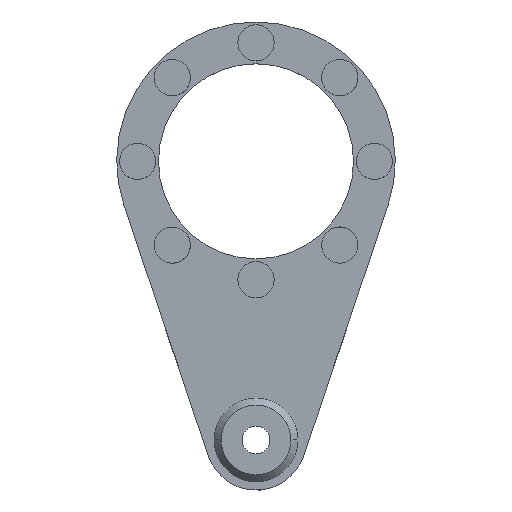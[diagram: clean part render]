
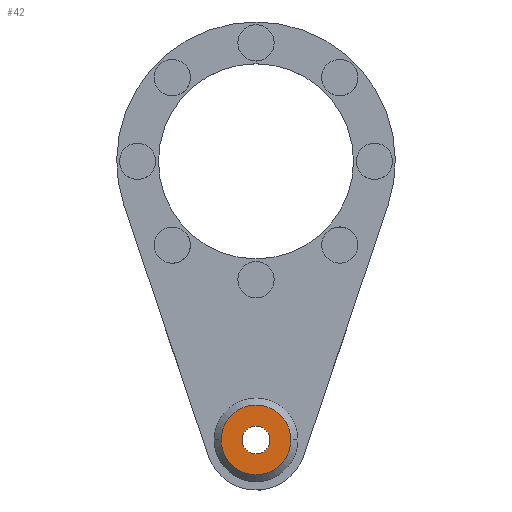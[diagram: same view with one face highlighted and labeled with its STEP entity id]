
A CAD part, top view. The second image highlights one B-rep face of the part: STEP entity #42.
In plain terms, the highlighted planar face has unit normal (0, 0, 1).
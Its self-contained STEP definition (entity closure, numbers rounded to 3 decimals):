
#31=FACE_BOUND('',#144,.T.);
#42=ADVANCED_FACE('',(#86,#31),#745,.T.);
#86=FACE_OUTER_BOUND('',#143,.T.);
#143=EDGE_LOOP('',(#248,#249));
#144=EDGE_LOOP('',(#250,#251));
#248=ORIENTED_EDGE('',*,*,#454,.F.);
#249=ORIENTED_EDGE('',*,*,#400,.F.);
#250=ORIENTED_EDGE('',*,*,#458,.F.);
#251=ORIENTED_EDGE('',*,*,#404,.F.);
#400=EDGE_CURVE('',#666,#695,#489,.T.);
#404=EDGE_CURVE('',#667,#698,#491,.T.);
#454=EDGE_CURVE('',#695,#666,#528,.T.);
#458=EDGE_CURVE('',#698,#667,#530,.T.);
#489=TRIMMED_CURVE($,#553,(#1419),(#1420),.T.,.CARTESIAN.);
#491=TRIMMED_CURVE($,#555,(#1429),(#1430),.T.,.CARTESIAN.);
#528=TRIMMED_CURVE($,#592,(#1566),(#1567),.T.,.CARTESIAN.);
#530=TRIMMED_CURVE($,#594,(#1576),(#1577),.T.,.CARTESIAN.);
#553=CIRCLE('',#982,12.5);
#555=CIRCLE('',#984,5.);
#592=CIRCLE('',#1021,12.5);
#594=CIRCLE('',#1023,5.);
#666=VERTEX_POINT('',#1319);
#667=VERTEX_POINT('',#1320);
#695=VERTEX_POINT('',#1348);
#698=VERTEX_POINT('',#1351);
#745=PLANE('',#940);
#940=AXIS2_PLACEMENT_3D('',#1234,#1050,$);
#982=AXIS2_PLACEMENT_3D($,#1418,#1103,#1104);
#984=AXIS2_PLACEMENT_3D($,#1428,#1107,#1108);
#1021=AXIS2_PLACEMENT_3D($,#1565,#1181,#1182);
#1023=AXIS2_PLACEMENT_3D($,#1575,#1185,#1186);
#1050=DIRECTION('',(0.,0.,1.));
#1103=DIRECTION('',(0.,0.,-1.));
#1104=DIRECTION('',(-1.,0.,0.));
#1107=DIRECTION('',(0.,0.,1.));
#1108=DIRECTION('',(-1.,0.,0.));
#1181=DIRECTION('',(0.,0.,-1.));
#1182=DIRECTION('',(1.,0.,0.));
#1185=DIRECTION('',(0.,0.,1.));
#1186=DIRECTION('',(1.,0.,0.));
#1234=CARTESIAN_POINT('',(15.06,-115.06,7.));
#1319=CARTESIAN_POINT('',(-12.5,-100.,7.));
#1320=CARTESIAN_POINT('',(-5.,-100.,7.));
#1348=CARTESIAN_POINT('',(12.5,-100.,7.));
#1351=CARTESIAN_POINT('',(5.,-100.,7.));
#1418=CARTESIAN_POINT('',(0.,-100.,7.));
#1419=CARTESIAN_POINT('',(-12.5,-100.,7.));
#1420=CARTESIAN_POINT('',(12.5,-100.,7.));
#1428=CARTESIAN_POINT('',(0.,-100.,7.));
#1429=CARTESIAN_POINT('',(-5.,-100.,7.));
#1430=CARTESIAN_POINT('',(5.,-100.,7.));
#1565=CARTESIAN_POINT('',(0.,-100.,7.));
#1566=CARTESIAN_POINT('',(12.5,-100.,7.));
#1567=CARTESIAN_POINT('',(-12.5,-100.,7.));
#1575=CARTESIAN_POINT('',(0.,-100.,7.));
#1576=CARTESIAN_POINT('',(5.,-100.,7.));
#1577=CARTESIAN_POINT('',(-5.,-100.,7.));
